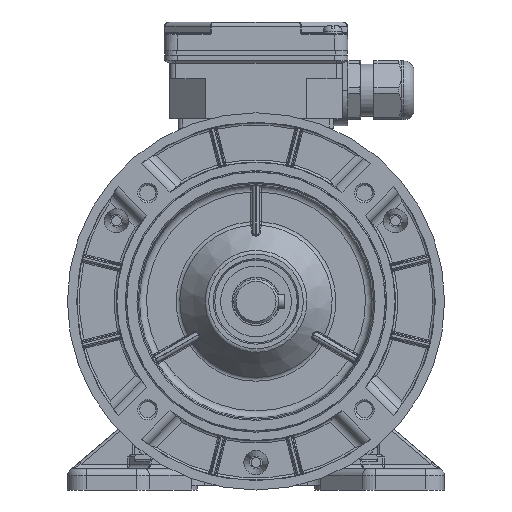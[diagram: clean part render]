
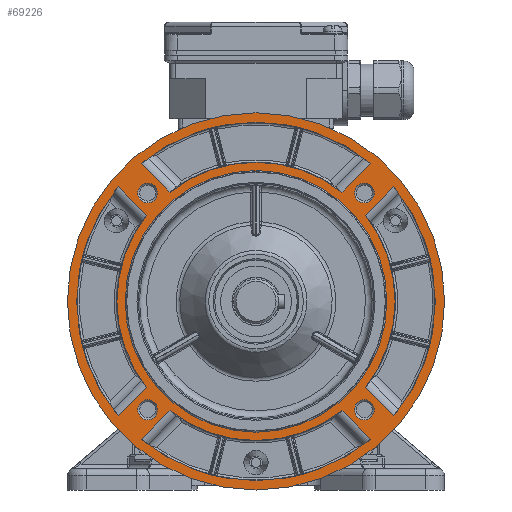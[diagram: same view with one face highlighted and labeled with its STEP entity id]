
A CAD part, left-side view. The second image highlights one B-rep face of the part: STEP entity #69226.
In plain terms, the highlighted planar face has unit normal (-1, 0, 0).
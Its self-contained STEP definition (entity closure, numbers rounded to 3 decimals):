
#4007=CIRCLE('',#72600,80.);
#4029=CIRCLE('',#72652,55.5);
#4030=CIRCLE('',#72653,4.2);
#4031=CIRCLE('',#72654,4.2);
#4032=CIRCLE('',#72655,4.2);
#4033=CIRCLE('',#72656,4.2);
#4034=CIRCLE('',#72657,59.);
#4035=CIRCLE('',#72658,76.);
#4036=CIRCLE('',#72659,59.);
#4037=CIRCLE('',#72660,76.);
#4038=CIRCLE('',#72661,59.);
#4039=CIRCLE('',#72662,76.);
#4040=CIRCLE('',#72663,59.);
#4041=CIRCLE('',#72664,76.);
#9367=ORIENTED_EDGE('',*,*,#23004,.T.);
#9368=ORIENTED_EDGE('',*,*,#23005,.T.);
#9369=ORIENTED_EDGE('',*,*,#23006,.T.);
#9370=ORIENTED_EDGE('',*,*,#23007,.T.);
#9371=ORIENTED_EDGE('',*,*,#23008,.T.);
#9372=ORIENTED_EDGE('',*,*,#22964,.T.);
#9373=ORIENTED_EDGE('',*,*,#23009,.T.);
#9374=ORIENTED_EDGE('',*,*,#23010,.T.);
#9375=ORIENTED_EDGE('',*,*,#23011,.F.);
#9376=ORIENTED_EDGE('',*,*,#23012,.F.);
#9377=ORIENTED_EDGE('',*,*,#23013,.T.);
#9378=ORIENTED_EDGE('',*,*,#23014,.F.);
#9379=ORIENTED_EDGE('',*,*,#23015,.F.);
#9380=ORIENTED_EDGE('',*,*,#23016,.T.);
#9381=ORIENTED_EDGE('',*,*,#23017,.T.);
#9382=ORIENTED_EDGE('',*,*,#23018,.T.);
#9383=ORIENTED_EDGE('',*,*,#23019,.F.);
#9384=ORIENTED_EDGE('',*,*,#23020,.F.);
#9385=ORIENTED_EDGE('',*,*,#23021,.T.);
#9386=ORIENTED_EDGE('',*,*,#23022,.T.);
#9387=ORIENTED_EDGE('',*,*,#23023,.F.);
#9388=ORIENTED_EDGE('',*,*,#23024,.F.);
#22964=EDGE_CURVE('',#30037,#30037,#4007,.T.);
#23004=EDGE_CURVE('',#30053,#30053,#4029,.F.);
#23005=EDGE_CURVE('',#30054,#30054,#4030,.F.);
#23006=EDGE_CURVE('',#30055,#30055,#4031,.F.);
#23007=EDGE_CURVE('',#30056,#30056,#4032,.F.);
#23008=EDGE_CURVE('',#30057,#30057,#4033,.F.);
#23009=EDGE_CURVE('',#30058,#30059,#34595,.T.);
#23010=EDGE_CURVE('',#30059,#30060,#4034,.T.);
#23011=EDGE_CURVE('',#30061,#30060,#34596,.T.);
#23012=EDGE_CURVE('',#30058,#30061,#4035,.T.);
#23013=EDGE_CURVE('',#30062,#30063,#4036,.T.);
#23014=EDGE_CURVE('',#30064,#30063,#34597,.T.);
#23015=EDGE_CURVE('',#30065,#30064,#4037,.T.);
#23016=EDGE_CURVE('',#30065,#30062,#34598,.T.);
#23017=EDGE_CURVE('',#30066,#30067,#34599,.T.);
#23018=EDGE_CURVE('',#30067,#30068,#4038,.T.);
#23019=EDGE_CURVE('',#30069,#30068,#34600,.T.);
#23020=EDGE_CURVE('',#30066,#30069,#4039,.T.);
#23021=EDGE_CURVE('',#30070,#30071,#34601,.T.);
#23022=EDGE_CURVE('',#30071,#30072,#4040,.T.);
#23023=EDGE_CURVE('',#30073,#30072,#34602,.T.);
#23024=EDGE_CURVE('',#30070,#30073,#4041,.T.);
#30037=VERTEX_POINT('',#98853);
#30053=VERTEX_POINT('',#98999);
#30054=VERTEX_POINT('',#99001);
#30055=VERTEX_POINT('',#99003);
#30056=VERTEX_POINT('',#99005);
#30057=VERTEX_POINT('',#99007);
#30058=VERTEX_POINT('',#99009);
#30059=VERTEX_POINT('',#99010);
#30060=VERTEX_POINT('',#99012);
#30061=VERTEX_POINT('',#99014);
#30062=VERTEX_POINT('',#99017);
#30063=VERTEX_POINT('',#99018);
#30064=VERTEX_POINT('',#99020);
#30065=VERTEX_POINT('',#99022);
#30066=VERTEX_POINT('',#99025);
#30067=VERTEX_POINT('',#99026);
#30068=VERTEX_POINT('',#99028);
#30069=VERTEX_POINT('',#99030);
#30070=VERTEX_POINT('',#99033);
#30071=VERTEX_POINT('',#99034);
#30072=VERTEX_POINT('',#99036);
#30073=VERTEX_POINT('',#99038);
#34595=LINE('',#99008,#38209);
#34596=LINE('',#99013,#38210);
#34597=LINE('',#99019,#38211);
#34598=LINE('',#99023,#38212);
#34599=LINE('',#99024,#38213);
#34600=LINE('',#99029,#38214);
#34601=LINE('',#99032,#38215);
#34602=LINE('',#99037,#38216);
#38209=VECTOR('',#79668,1000.);
#38210=VECTOR('',#79671,1000.);
#38211=VECTOR('',#79676,1000.);
#38212=VECTOR('',#79679,1000.);
#38213=VECTOR('',#79680,1000.);
#38214=VECTOR('',#79683,1000.);
#38215=VECTOR('',#79686,1000.);
#38216=VECTOR('',#79689,1000.);
#41900=EDGE_LOOP('',(#9367));
#41901=EDGE_LOOP('',(#9368));
#41902=EDGE_LOOP('',(#9369));
#41903=EDGE_LOOP('',(#9370));
#41904=EDGE_LOOP('',(#9371));
#41905=EDGE_LOOP('',(#9372));
#41906=EDGE_LOOP('',(#9373,#9374,#9375,#9376));
#41907=EDGE_LOOP('',(#9377,#9378,#9379,#9380));
#41908=EDGE_LOOP('',(#9381,#9382,#9383,#9384));
#41909=EDGE_LOOP('',(#9385,#9386,#9387,#9388));
#45345=FACE_BOUND('',#41900,.T.);
#45346=FACE_BOUND('',#41901,.T.);
#45347=FACE_BOUND('',#41902,.T.);
#45348=FACE_BOUND('',#41903,.T.);
#45349=FACE_BOUND('',#41904,.T.);
#45350=FACE_BOUND('',#41905,.T.);
#45351=FACE_BOUND('',#41906,.T.);
#45352=FACE_BOUND('',#41907,.T.);
#45353=FACE_BOUND('',#41908,.T.);
#45354=FACE_BOUND('',#41909,.T.);
#48263=PLANE('',#72651);
#69226=ADVANCED_FACE('',(#45345,#45346,#45347,#45348,#45349,#45350,#45351,
#45352,#45353,#45354),#48263,.T.);
#72600=AXIS2_PLACEMENT_3D('',#98852,#79546,#79547);
#72651=AXIS2_PLACEMENT_3D('',#98997,#79656,#79657);
#72652=AXIS2_PLACEMENT_3D('',#98998,#79658,#79659);
#72653=AXIS2_PLACEMENT_3D('',#99000,#79660,#79661);
#72654=AXIS2_PLACEMENT_3D('',#99002,#79662,#79663);
#72655=AXIS2_PLACEMENT_3D('',#99004,#79664,#79665);
#72656=AXIS2_PLACEMENT_3D('',#99006,#79666,#79667);
#72657=AXIS2_PLACEMENT_3D('',#99011,#79669,#79670);
#72658=AXIS2_PLACEMENT_3D('',#99015,#79672,#79673);
#72659=AXIS2_PLACEMENT_3D('',#99016,#79674,#79675);
#72660=AXIS2_PLACEMENT_3D('',#99021,#79677,#79678);
#72661=AXIS2_PLACEMENT_3D('',#99027,#79681,#79682);
#72662=AXIS2_PLACEMENT_3D('',#99031,#79684,#79685);
#72663=AXIS2_PLACEMENT_3D('',#99035,#79687,#79688);
#72664=AXIS2_PLACEMENT_3D('',#99039,#79690,#79691);
#79546=DIRECTION('',(-1.,0.,0.));
#79547=DIRECTION('',(0.,1.,0.));
#79656=DIRECTION('',(-1.,0.,0.));
#79657=DIRECTION('',(0.,-1.,0.));
#79658=DIRECTION('',(-1.,0.,0.));
#79659=DIRECTION('',(0.,-1.,0.));
#79660=DIRECTION('',(-1.,0.,0.));
#79661=DIRECTION('',(0.,-1.,0.));
#79662=DIRECTION('',(-1.,0.,0.));
#79663=DIRECTION('',(0.,-1.,0.));
#79664=DIRECTION('',(-1.,0.,0.));
#79665=DIRECTION('',(0.,-1.,0.));
#79666=DIRECTION('',(-1.,0.,0.));
#79667=DIRECTION('',(0.,-1.,0.));
#79668=DIRECTION('',(0.,0.707,0.707));
#79669=DIRECTION('',(-1.,0.,0.));
#79670=DIRECTION('',(0.,0.,1.));
#79671=DIRECTION('',(0.,0.707,-0.707));
#79672=DIRECTION('',(-1.,0.,0.));
#79673=DIRECTION('',(0.,0.,1.));
#79674=DIRECTION('',(-1.,0.,0.));
#79675=DIRECTION('',(0.,0.,1.));
#79676=DIRECTION('',(0.,0.707,0.707));
#79677=DIRECTION('',(-1.,0.,0.));
#79678=DIRECTION('',(0.,0.,1.));
#79679=DIRECTION('',(0.,-0.707,0.707));
#79680=DIRECTION('',(0.,0.707,-0.707));
#79681=DIRECTION('',(-1.,0.,0.));
#79682=DIRECTION('',(0.,0.,1.));
#79683=DIRECTION('',(0.,-0.707,-0.707));
#79684=DIRECTION('',(-1.,0.,0.));
#79685=DIRECTION('',(0.,0.,1.));
#79686=DIRECTION('',(0.,-0.707,-0.707));
#79687=DIRECTION('',(-1.,0.,0.));
#79688=DIRECTION('',(0.,0.,1.));
#79689=DIRECTION('',(0.,-0.707,0.707));
#79690=DIRECTION('',(-1.,0.,0.));
#79691=DIRECTION('',(0.,0.,1.));
#98852=CARTESIAN_POINT('',(-44.8,0.,0.));
#98853=CARTESIAN_POINT('',(-44.8,80.,0.));
#98997=CARTESIAN_POINT('',(-44.8,0.,0.));
#98998=CARTESIAN_POINT('',(-44.8,0.,0.));
#98999=CARTESIAN_POINT('',(-44.8,-55.5,0.));
#99000=CARTESIAN_POINT('',(-44.8,-45.962,-45.962));
#99001=CARTESIAN_POINT('',(-44.8,-50.162,-45.962));
#99002=CARTESIAN_POINT('',(-44.8,-45.962,45.962));
#99003=CARTESIAN_POINT('',(-44.8,-50.162,45.962));
#99004=CARTESIAN_POINT('',(-44.8,45.962,45.962));
#99005=CARTESIAN_POINT('',(-44.8,41.762,45.962));
#99006=CARTESIAN_POINT('',(-44.8,45.962,-45.962));
#99007=CARTESIAN_POINT('',(-44.8,41.762,-45.962));
#99008=CARTESIAN_POINT('',(-44.8,-70.057,-60.157));
#99009=CARTESIAN_POINT('',(-44.8,-58.461,-48.562));
#99010=CARTESIAN_POINT('',(-44.8,-46.374,-36.475));
#99011=CARTESIAN_POINT('',(-44.8,0.,0.));
#99012=CARTESIAN_POINT('',(-44.8,-46.374,36.475));
#99013=CARTESIAN_POINT('',(-44.8,-70.057,60.157));
#99014=CARTESIAN_POINT('',(-44.8,-58.461,48.562));
#99015=CARTESIAN_POINT('',(-44.8,0.,0.));
#99016=CARTESIAN_POINT('',(-44.8,0.,0.));
#99017=CARTESIAN_POINT('',(-44.8,36.475,-46.374));
#99018=CARTESIAN_POINT('',(-44.8,-36.475,-46.374));
#99019=CARTESIAN_POINT('',(-44.8,-60.157,-70.057));
#99020=CARTESIAN_POINT('',(-44.8,-48.562,-58.461));
#99021=CARTESIAN_POINT('',(-44.8,0.,0.));
#99022=CARTESIAN_POINT('',(-44.8,48.562,-58.461));
#99023=CARTESIAN_POINT('',(-44.8,60.157,-70.057));
#99024=CARTESIAN_POINT('',(-44.8,-60.157,70.057));
#99025=CARTESIAN_POINT('',(-44.8,-48.562,58.461));
#99026=CARTESIAN_POINT('',(-44.8,-36.475,46.374));
#99027=CARTESIAN_POINT('',(-44.8,0.,0.));
#99028=CARTESIAN_POINT('',(-44.8,36.475,46.374));
#99029=CARTESIAN_POINT('',(-44.8,60.157,70.057));
#99030=CARTESIAN_POINT('',(-44.8,48.562,58.461));
#99031=CARTESIAN_POINT('',(-44.8,0.,0.));
#99032=CARTESIAN_POINT('',(-44.8,70.057,60.157));
#99033=CARTESIAN_POINT('',(-44.8,58.461,48.562));
#99034=CARTESIAN_POINT('',(-44.8,46.374,36.475));
#99035=CARTESIAN_POINT('',(-44.8,0.,0.));
#99036=CARTESIAN_POINT('',(-44.8,46.374,-36.475));
#99037=CARTESIAN_POINT('',(-44.8,70.057,-60.157));
#99038=CARTESIAN_POINT('',(-44.8,58.461,-48.562));
#99039=CARTESIAN_POINT('',(-44.8,0.,0.));
